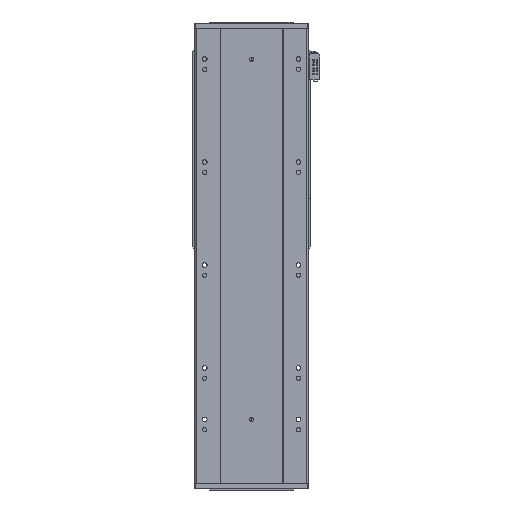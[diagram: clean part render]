
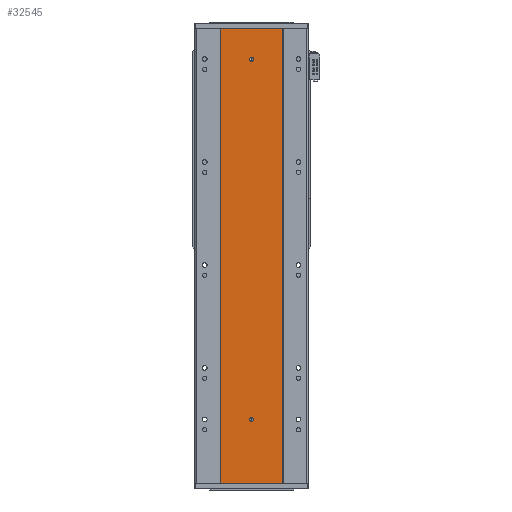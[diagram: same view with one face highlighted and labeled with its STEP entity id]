
A CAD part, front view. The second image highlights one B-rep face of the part: STEP entity #32545.
In plain terms, the highlighted planar face has unit normal (0, -1, 0).
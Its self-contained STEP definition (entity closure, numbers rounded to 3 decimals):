
#41 = DIRECTION ( 'NONE',  ( 0., -1., 0. ) ) ;
#928 = ORIENTED_EDGE ( 'NONE', *, *, #30328, .T. ) ;
#1030 = DIRECTION ( 'NONE',  ( 0., 0., -1. ) ) ;
#1396 = VERTEX_POINT ( 'NONE', #46185 ) ;
#2044 = VERTEX_POINT ( 'NONE', #15525 ) ;
#2395 = ORIENTED_EDGE ( 'NONE', *, *, #16222, .F. ) ;
#2741 = EDGE_CURVE ( 'NONE', #13355, #1396, #57158, .T. ) ;
#3605 = CARTESIAN_POINT ( 'NONE',  ( 60., 0., 885. ) ) ;
#3922 = LINE ( 'NONE', #13882, #35994 ) ;
#7729 = VECTOR ( 'NONE', #39553, 1000. ) ;
#7805 = DIRECTION ( 'NONE',  ( 0., -1., 0. ) ) ;
#8193 = CARTESIAN_POINT ( 'NONE',  ( -60., 0., 0. ) ) ;
#9446 = CARTESIAN_POINT ( 'NONE',  ( 0., 0., 821. ) ) ;
#10813 = ORIENTED_EDGE ( 'NONE', *, *, #25404, .F. ) ;
#13355 = VERTEX_POINT ( 'NONE', #9446 ) ;
#13419 = ORIENTED_EDGE ( 'NONE', *, *, #46462, .F. ) ;
#13882 = CARTESIAN_POINT ( 'NONE',  ( -60., 0., 885. ) ) ;
#15032 = DIRECTION ( 'NONE',  ( 0., 0., -1. ) ) ;
#15525 = CARTESIAN_POINT ( 'NONE',  ( 60., 0., 0. ) ) ;
#16047 = FACE_BOUND ( 'NONE', #28343, .T. ) ;
#16222 = EDGE_CURVE ( 'NONE', #39488, #34981, #19211, .T. ) ;
#17583 = CARTESIAN_POINT ( 'NONE',  ( 0., 0., 825. ) ) ;
#17755 = CARTESIAN_POINT ( 'NONE',  ( 60., 0., 885. ) ) ;
#17905 = DIRECTION ( 'NONE',  ( 1., 0., 0. ) ) ;
#18427 = ORIENTED_EDGE ( 'NONE', *, *, #43700, .F. ) ;
#18955 = PLANE ( 'NONE',  #38131 ) ;
#19211 = CIRCLE ( 'NONE', #21444, 4. ) ;
#20111 = AXIS2_PLACEMENT_3D ( 'NONE', #17583, #41, #48712 ) ;
#21444 = AXIS2_PLACEMENT_3D ( 'NONE', #51230, #51035, #46171 ) ;
#23101 = LINE ( 'NONE', #8193, #7729 ) ;
#24035 = EDGE_LOOP ( 'NONE', ( #928, #18427, #10813, #56007 ) ) ;
#25401 = DIRECTION ( 'NONE',  ( 0., 0., -1. ) ) ;
#25404 = EDGE_CURVE ( 'NONE', #57722, #34841, #31967, .T. ) ;
#26250 = ORIENTED_EDGE ( 'NONE', *, *, #2741, .F. ) ;
#27740 = DIRECTION ( 'NONE',  ( 0., -1., 0. ) ) ;
#28306 = DIRECTION ( 'NONE',  ( 0., 1., 0. ) ) ;
#28343 = EDGE_LOOP ( 'NONE', ( #26250, #13419 ) ) ;
#28589 = FACE_OUTER_BOUND ( 'NONE', #24035, .T. ) ;
#28953 = LINE ( 'NONE', #17755, #36598 ) ;
#30328 = EDGE_CURVE ( 'NONE', #56550, #2044, #23101, .T. ) ;
#31907 = CARTESIAN_POINT ( 'NONE',  ( -60., 0., 885. ) ) ;
#31967 = LINE ( 'NONE', #31907, #57727 ) ;
#32052 = CARTESIAN_POINT ( 'NONE',  ( 0., 0., 121. ) ) ;
#32545 = ADVANCED_FACE ( 'NONE', ( #16047, #55053, #28589 ), #18955, .F. ) ;
#33148 = AXIS2_PLACEMENT_3D ( 'NONE', #42494, #7805, #25401 ) ;
#33272 = CARTESIAN_POINT ( 'NONE',  ( 0., 0., 129. ) ) ;
#33327 = CIRCLE ( 'NONE', #33148, 4. ) ;
#34740 = EDGE_CURVE ( 'NONE', #57722, #56550, #3922, .T. ) ;
#34841 = VERTEX_POINT ( 'NONE', #3605 ) ;
#34981 = VERTEX_POINT ( 'NONE', #32052 ) ;
#35751 = EDGE_LOOP ( 'NONE', ( #52715, #2395 ) ) ;
#35994 = VECTOR ( 'NONE', #15032, 1000. ) ;
#36598 = VECTOR ( 'NONE', #39725, 1000. ) ;
#38036 = AXIS2_PLACEMENT_3D ( 'NONE', #54407, #27740, #1030 ) ;
#38131 = AXIS2_PLACEMENT_3D ( 'NONE', #50295, #28306, #50099 ) ;
#39488 = VERTEX_POINT ( 'NONE', #33272 ) ;
#39553 = DIRECTION ( 'NONE',  ( 1., 0., 0. ) ) ;
#39725 = DIRECTION ( 'NONE',  ( 0., 0., -1. ) ) ;
#42494 = CARTESIAN_POINT ( 'NONE',  ( 0., 0., 125. ) ) ;
#42573 = CIRCLE ( 'NONE', #20111, 4. ) ;
#43700 = EDGE_CURVE ( 'NONE', #34841, #2044, #28953, .T. ) ;
#46171 = DIRECTION ( 'NONE',  ( 0., 0., -1. ) ) ;
#46185 = CARTESIAN_POINT ( 'NONE',  ( 0., 0., 829. ) ) ;
#46462 = EDGE_CURVE ( 'NONE', #1396, #13355, #42573, .T. ) ;
#46804 = CARTESIAN_POINT ( 'NONE',  ( -60., 0., 0. ) ) ;
#48712 = DIRECTION ( 'NONE',  ( 0., 0., -1. ) ) ;
#49975 = CARTESIAN_POINT ( 'NONE',  ( -60., 0., 885. ) ) ;
#50099 = DIRECTION ( 'NONE',  ( 0., 0., 1. ) ) ;
#50295 = CARTESIAN_POINT ( 'NONE',  ( -60., 0., 885. ) ) ;
#51035 = DIRECTION ( 'NONE',  ( 0., -1., 0. ) ) ;
#51230 = CARTESIAN_POINT ( 'NONE',  ( 0., 0., 125. ) ) ;
#52715 = ORIENTED_EDGE ( 'NONE', *, *, #54109, .F. ) ;
#54109 = EDGE_CURVE ( 'NONE', #34981, #39488, #33327, .T. ) ;
#54407 = CARTESIAN_POINT ( 'NONE',  ( 0., 0., 825. ) ) ;
#55053 = FACE_BOUND ( 'NONE', #35751, .T. ) ;
#56007 = ORIENTED_EDGE ( 'NONE', *, *, #34740, .T. ) ;
#56550 = VERTEX_POINT ( 'NONE', #46804 ) ;
#57158 = CIRCLE ( 'NONE', #38036, 4. ) ;
#57722 = VERTEX_POINT ( 'NONE', #49975 ) ;
#57727 = VECTOR ( 'NONE', #17905, 1000. ) ;
